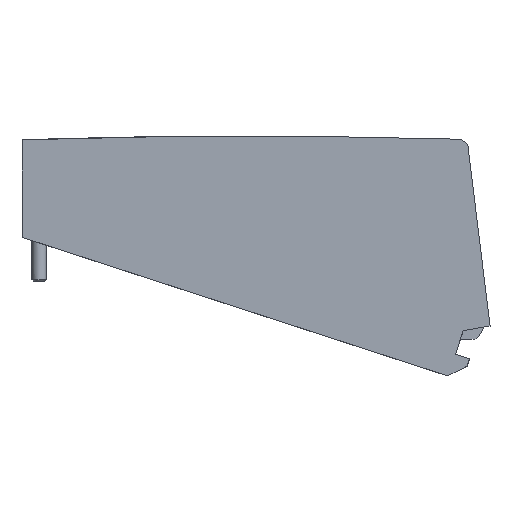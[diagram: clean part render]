
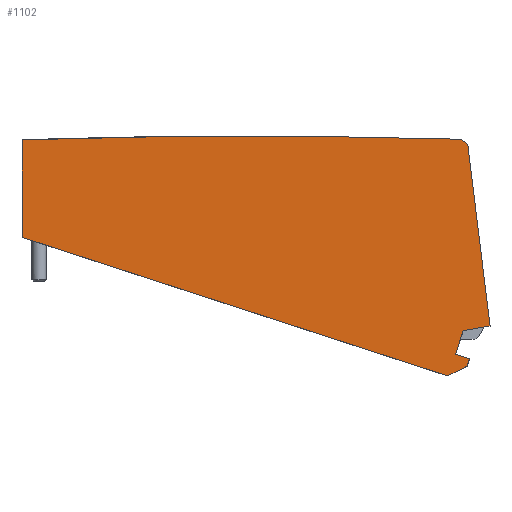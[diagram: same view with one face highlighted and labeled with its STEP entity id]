
A CAD part, top view. The second image highlights one B-rep face of the part: STEP entity #1102.
In plain terms, the highlighted planar face has unit normal (0, 0, 1).
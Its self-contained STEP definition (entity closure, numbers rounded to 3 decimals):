
#144=CARTESIAN_POINT('',(4.42,-1180.7,6.15));
#145=DIRECTION('',(0.,0.,-1.));
#146=DIRECTION('',(-0.033,0.999,0.));
#147=AXIS2_PLACEMENT_3D('',#144,#145,#146);
#149=DIRECTION('',(1.,0.,0.));
#150=VECTOR('',#149,0.725);
#151=CARTESIAN_POINT('',(40.748,18.75,6.15));
#152=LINE('',#151,#150);
#153=DIRECTION('',(0.749,-0.663,0.));
#154=VECTOR('',#153,1.498);
#155=CARTESIAN_POINT('',(41.474,18.75,6.15));
#156=LINE('',#155,#154);
#157=DIRECTION('',(0.122,-0.993,0.));
#158=VECTOR('',#157,31.968);
#159=CARTESIAN_POINT('',(42.595,17.757,6.15));
#160=LINE('',#159,#158);
#161=DIRECTION('',(-0.985,-0.174,0.));
#162=VECTOR('',#161,4.777);
#163=CARTESIAN_POINT('',(46.491,-13.972,6.15));
#164=LINE('',#163,#162);
#165=DIRECTION('',(-0.309,-0.951,0.));
#166=VECTOR('',#165,4.354);
#167=CARTESIAN_POINT('',(41.787,-14.801,6.15));
#168=LINE('',#167,#166);
#169=DIRECTION('',(0.951,-0.309,0.));
#170=VECTOR('',#169,2.6);
#171=CARTESIAN_POINT('',(40.441,-18.942,6.15));
#172=LINE('',#171,#170);
#173=DIRECTION('',(-0.309,-0.951,0.));
#174=VECTOR('',#173,1.3);
#175=CARTESIAN_POINT('',(42.914,-19.746,6.15));
#176=LINE('',#175,#174);
#177=DIRECTION('',(-0.891,-0.454,0.));
#178=VECTOR('',#177,3.818);
#179=CARTESIAN_POINT('',(42.512,-20.982,6.15));
#180=LINE('',#179,#178);
#181=DIRECTION('',(-0.951,0.309,0.));
#182=VECTOR('',#181,78.45);
#183=CARTESIAN_POINT('',(39.11,-22.715,6.15));
#184=LINE('',#183,#182);
#185=DIRECTION('',(0.,1.,0.));
#186=VECTOR('',#185,17.109);
#187=CARTESIAN_POINT('',(-35.5,1.527,6.15));
#188=LINE('',#187,#186);
#810=CARTESIAN_POINT('',(40.748,18.75,6.15));
#811=VERTEX_POINT('',#810);
#812=CARTESIAN_POINT('',(-35.5,18.636,6.15));
#813=VERTEX_POINT('',#812);
#851=CARTESIAN_POINT('',(-35.5,1.527,6.15));
#852=VERTEX_POINT('',#851);
#855=CARTESIAN_POINT('',(41.474,18.75,6.15));
#856=VERTEX_POINT('',#855);
#857=CARTESIAN_POINT('',(42.595,17.757,6.15));
#858=VERTEX_POINT('',#857);
#859=CARTESIAN_POINT('',(46.491,-13.972,6.15));
#860=VERTEX_POINT('',#859);
#861=CARTESIAN_POINT('',(41.787,-14.801,6.15));
#862=VERTEX_POINT('',#861);
#863=CARTESIAN_POINT('',(40.441,-18.942,6.15));
#864=VERTEX_POINT('',#863);
#865=CARTESIAN_POINT('',(42.914,-19.746,6.15));
#866=VERTEX_POINT('',#865);
#867=CARTESIAN_POINT('',(42.512,-20.982,6.15));
#868=VERTEX_POINT('',#867);
#869=CARTESIAN_POINT('',(39.11,-22.715,6.15));
#870=VERTEX_POINT('',#869);
#1075=CARTESIAN_POINT('',(-26.783,12.364,6.15));
#1076=DIRECTION('',(0.,0.,-1.));
#1077=DIRECTION('',(-1.,0.,0.));
#1078=AXIS2_PLACEMENT_3D('',#1075,#1076,#1077);
#1079=PLANE('',#1078);
#1080=ORIENTED_EDGE('',*,*,#979,.T.);
#1082=ORIENTED_EDGE('',*,*,#1081,.T.);
#1084=ORIENTED_EDGE('',*,*,#1083,.T.);
#1086=ORIENTED_EDGE('',*,*,#1085,.T.);
#1088=ORIENTED_EDGE('',*,*,#1087,.T.);
#1090=ORIENTED_EDGE('',*,*,#1089,.T.);
#1092=ORIENTED_EDGE('',*,*,#1091,.T.);
#1094=ORIENTED_EDGE('',*,*,#1093,.T.);
#1096=ORIENTED_EDGE('',*,*,#1095,.T.);
#1098=ORIENTED_EDGE('',*,*,#1097,.T.);
#1099=ORIENTED_EDGE('',*,*,#1051,.T.);
#1100=EDGE_LOOP('',(#1080,#1082,#1084,#1086,#1088,#1090,#1092,#1094,#1096,#1098,
#1099));
#1101=FACE_OUTER_BOUND('',#1100,.F.);
#1102=ADVANCED_FACE('',(#1101),#1079,.F.);
#148=CIRCLE('',#147,1200.);
#979=EDGE_CURVE('',#813,#811,#148,.T.);
#1051=EDGE_CURVE('',#852,#813,#188,.T.);
#1081=EDGE_CURVE('',#811,#856,#152,.T.);
#1083=EDGE_CURVE('',#856,#858,#156,.T.);
#1085=EDGE_CURVE('',#858,#860,#160,.T.);
#1087=EDGE_CURVE('',#860,#862,#164,.T.);
#1089=EDGE_CURVE('',#862,#864,#168,.T.);
#1091=EDGE_CURVE('',#864,#866,#172,.T.);
#1093=EDGE_CURVE('',#866,#868,#176,.T.);
#1095=EDGE_CURVE('',#868,#870,#180,.T.);
#1097=EDGE_CURVE('',#870,#852,#184,.T.);
